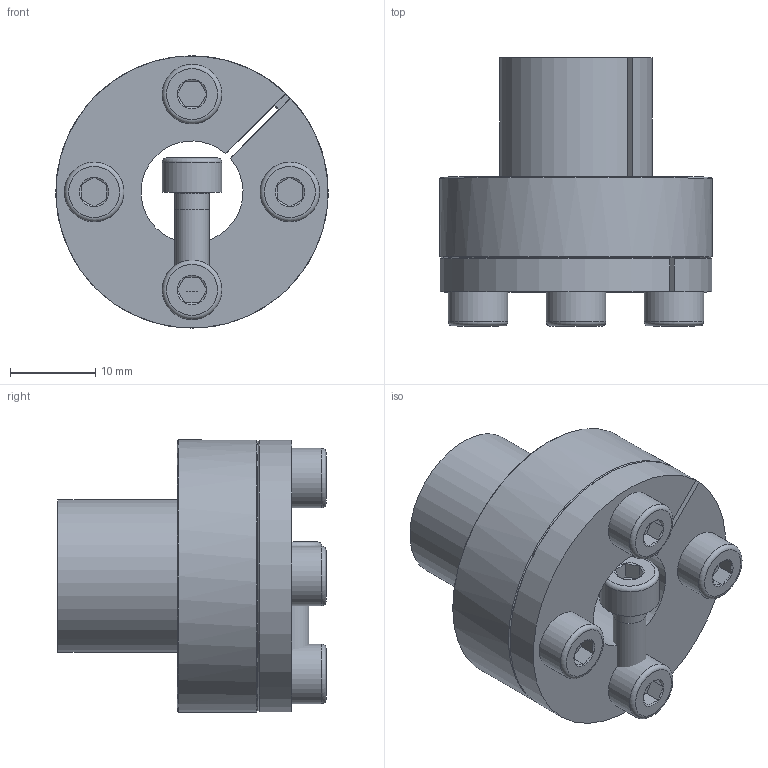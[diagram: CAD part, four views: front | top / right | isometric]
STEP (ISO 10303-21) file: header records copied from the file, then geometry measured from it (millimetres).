
FILE_DESCRIPTION( ( 'Unknown' ), '1' );
FILE_NAME( 'C:/Dokumente und Einstellungen/Sven/Desktop/homepage/cad - homepage/KBS80/KBS 80 - 12 x 18.stp', 'Unknown', ( 'Unknown' ), ( 'Unknown' ), 'XStep 1.0', 'Unknown', ' ' );
FILE_SCHEMA( ( 'automotive_design' ) );
Length unit declared in the file: millimetre
Products named in the file (6): Assem1; KBS 80 - 12 x 18; ISO EN DIN 4762 M4x12; ISO EN DIN 4762 M4x12-oa0; ISO EN DIN 4762 M4x12-oa1; ISO EN DIN 4762 M4x12-oa2
Bounding box: 32 x 31.5 x 32 mm (x, y, z)
Volume: 23278.9 mm3; surface area: 13555.4 mm2
Topology: 10 solids, 10 shells, 248 faces, 478 edges, 280 vertices
Faces by surface type: plane 112, cone 70, cylinder 50, torus 16
Full cylindrical faces by diameter (mm): 3.5 x8, 4 x24, 7 x8, 32 x2
Entity records: 3259 total; most frequent: CARTESIAN_POINT 629, DIRECTION 516, ORIENTED_EDGE 386, AXIS2_PLACEMENT_3D 225, EDGE_CURVE 193, EDGE_LOOP 185, FACE_OUTER_BOUND 153, VERTEX_POINT 130
